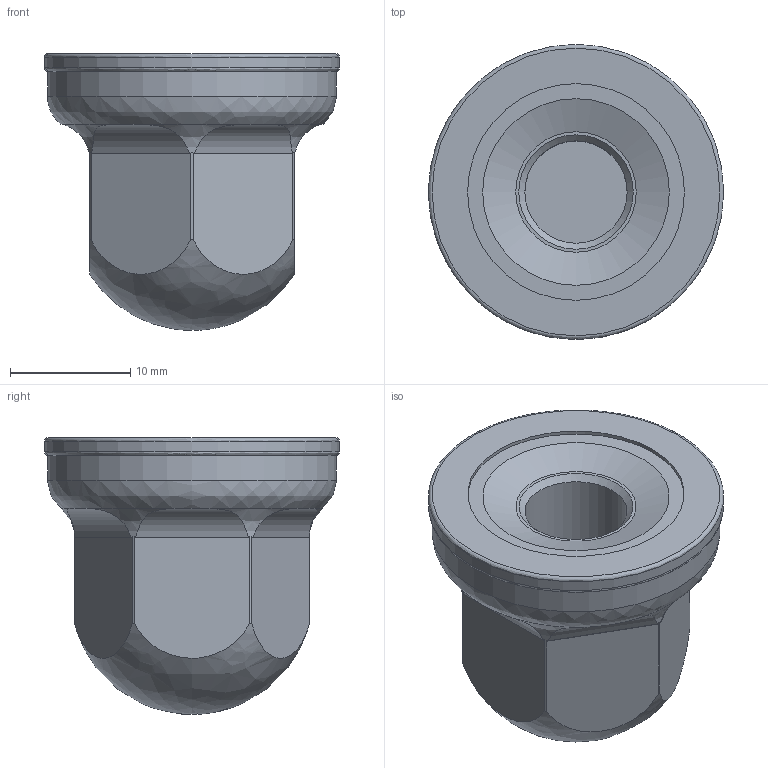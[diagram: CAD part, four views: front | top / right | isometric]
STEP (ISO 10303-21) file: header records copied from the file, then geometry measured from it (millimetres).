
FILE_DESCRIPTION(('STEP AP203'),'2;1');
FILE_NAME('DDM10I-3A.stp','2017-09-25T15:33:29',(''),(''),'2014.1.117','THINKDESIGN','');
FILE_SCHEMA(('CONFIG_CONTROL_DESIGN'));
Length unit declared in the file: millimetre
Bounding box: 24.5 x 24.5 x 23 mm (x, y, z)
Volume: 5344.9 mm3; surface area: 3536.9 mm2
Topology: 2 solids, 2 shells, 55 faces, 156 edges, 109 vertices
Faces by surface type: plane 20, cylinder 19, bspline 16
Full cylindrical faces by diameter (mm): 8.5 x1, 18 x2, 22 x2, 24 x1, 24.5 x1
Entity records: 2413 total; most frequent: CARTESIAN_POINT 903, ORIENTED_EDGE 310, DIRECTION 291, EDGE_CURVE 155, AXIS2_PLACEMENT_3D 123, VERTEX_POINT 109, CIRCLE 84, EDGE_LOOP 62
